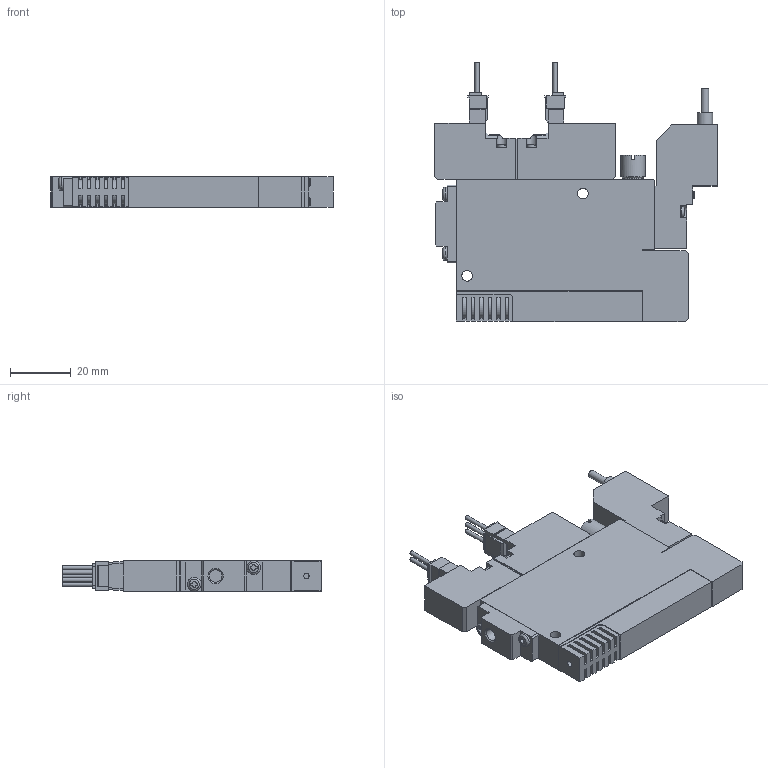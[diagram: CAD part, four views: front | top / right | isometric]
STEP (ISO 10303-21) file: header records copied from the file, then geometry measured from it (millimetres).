
FILE_DESCRIPTION(('STEP AP203'),'1');
FILE_NAME('5WS_3D.stp','2024-09-04T23:21:43',(' '),(' '),'Spatial InterOp 3D',' ',' ');
FILE_SCHEMA(('CONFIG_CONTROL_DESIGN'));
Length unit declared in the file: millimetre
Products named in the file (5): BSC1S※※V8※5WS; Solenoid valve W; Pressure Sensor V8; Unit-S; BaseSS10R
Assembly tree (4 placements, depth 2):
  BSC1S※※V8※5WS
    Solenoid valve W
    Pressure Sensor V8
    Unit-S
    BaseSS10R
Bounding box: 92.55 x 85.05 x 10 mm (x, y, z)
Volume: 48030.6 mm3; surface area: 19780.5 mm2
Topology: 4 solids, 4 shells, 490 faces, 1339 edges, 887 vertices
Faces by surface type: plane 371, cylinder 103, cone 6, torus 6, sphere 4
Full cylindrical faces by diameter (mm): 1.4 x5, 1.8 x1, 2.5 x3, 3 x4, 3.5 x6, 4.134 x3, 4.5 x2, 5 x1, 5.5 x1, 7 x1, 7.7 x1, 8 x1
Entity records: 15657 total; most frequent: CARTESIAN_POINT 3176, ORIENTED_EDGE 2554, DIRECTION 2427, EDGE_CURVE 1277, LINE 989, VECTOR 989, VERTEX_POINT 870, AXIS2_PLACEMENT_3D 719
